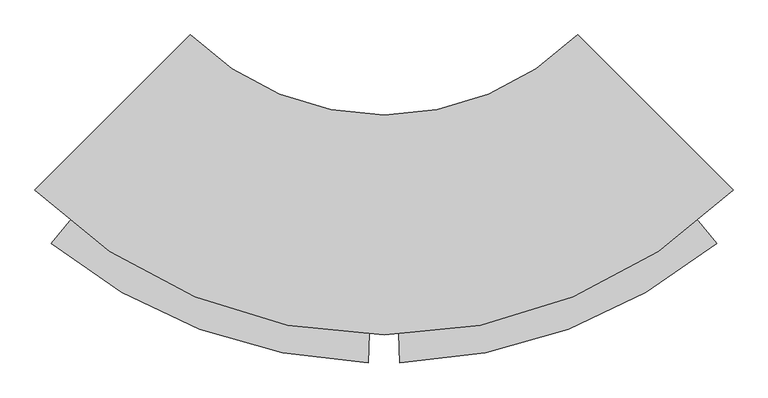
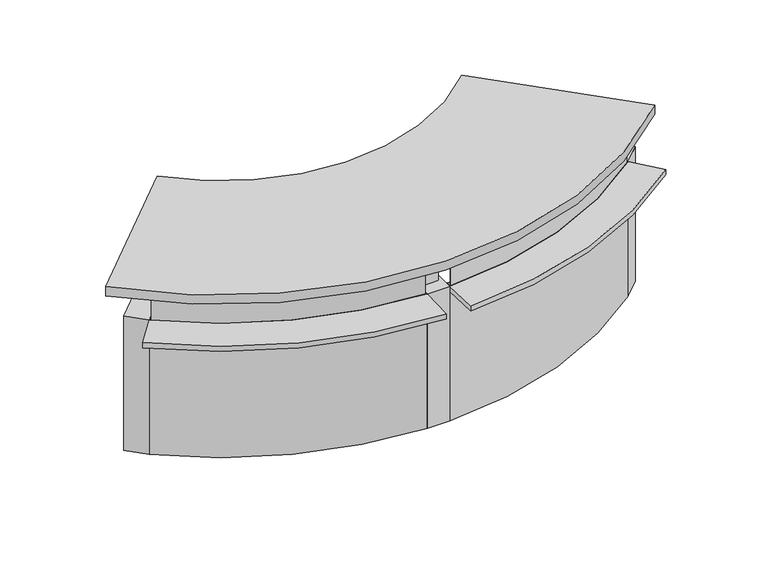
"""IFC4 building model written with IfcOpenShell, lengths in millimetres: furniture geometry, BK Library - Exlibris - 90 - Counter : BK Library - Exlibris - 90 - Counter."""

from ifc_helpers import new_model, si_unit, point, frame, frame_2d, origin, origin_with_axes, place, context, project, spatial, polyline, circle_curve, trimmed, segment, composite_curve, outline, extrude, source, transform, mapped, element, save


def furniture_1e460b96(model_context):
    return source(origin(), model_context, "Body", "SweptSolid", [
        extrude(outline(composite_curve([segment(polyline([(-1058.5159982, -80.4683379), (-969.2713404, 27.3991319)]), True, "CONTINUOUS"), segment(trimmed(circle_curve(frame_2d((-0.3293413, 1198.5316618)), 1520.0), [point((-969.2713404, 27.3991319))], [point((-45.9457466, -320.7836918))], True, "CARTESIAN"), True, "CONTINUOUS"), segment(polyline([(-45.9457466, -320.7836918), (-50.1472576, -460.7206323)]), True, "CONTINUOUS"), segment(trimmed(circle_curve(frame_2d((-0.3293413, 1198.5316618)), 1660.0), [point((-50.1472576, -460.7206323))], [point((-1058.5159982, -80.4683379))], False, "CARTESIAN"), True, "CONTINUOUS")], self_intersect=False)), frame((0.0, 0.0, 553.0000153), z_axis=(0.0, 0.0, 1.0), x_axis=(1.0, 0.0, 0.0)), (0.0, 0.0, 1.0), 22.0),
        extrude(outline(composite_curve([segment(polyline([(968.4923788, 27.2996272), (1057.7259582, -80.5770075)]), True, "CONTINUOUS"), segment(trimmed(circle_curve(frame_2d((-0.3293404, 1198.5316607)), 1660.0), [point((1057.7259582, -80.5770075))], [point((49.3181712, -460.7257409))], False, "CARTESIAN"), True, "CONTINUOUS"), segment(polyline([(49.3181712, -460.7257409), (45.1310317, -320.7883697)]), True, "CONTINUOUS"), segment(trimmed(circle_curve(frame_2d((-0.3293404, 1198.5316607)), 1520.0), [point((45.1310317, -320.7883697))], [point((968.4923788, 27.2996272))], True, "CARTESIAN"), True, "CONTINUOUS")], self_intersect=False)), frame((0.0, 0.0, 553.0000153), z_axis=(0.0, 0.0, 1.0), x_axis=(1.0, 0.0, 0.0)), (0.0, 0.0, 1.0), 22.0),
        extrude(outline(composite_curve([segment(polyline([(-1110.5493413, 88.4363723), (-615.8093413, 583.0263723)]), True, "CONTINUOUS"), segment(trimmed(circle_curve(frame_2d((-0.2543413, 1197.8369464)), 870.0), [point((-615.8093413, 583.0263723))], [point((615.3006587, 583.0263723))], True, "CARTESIAN"), True, "CONTINUOUS"), segment(polyline([(615.3006587, 583.0263723), (1109.8906587, 88.4363723)]), True, "CONTINUOUS"), segment(trimmed(circle_curve(frame_2d((-0.3293413, 1198.5316618)), 1570.0), [point((1109.8906587, 88.4363723))], [point((-1110.5493413, 88.4363723))], False, "CARTESIAN"), True, "CONTINUOUS")], self_intersect=False)), frame((0.0, 0.0, 691.0), z_axis=(0.0, 0.0, 1.0), x_axis=(1.0, 0.0, 0.0)), (0.0, 0.0, 1.0), 39.0),
        extrude(outline(polyline([(-608.8676716, 519.2659778), (-543.4702121, 453.8486844), (-969.5666368, 27.8814476), (-1034.9640964, 93.298741), (-608.8676716, 519.2659778)])), origin_with_axes(), (0.0, 0.0, 1.0), 575.0000153),
        extrude(outline(polyline([(608.3626316, 519.2537213), (1034.3944672, 93.2218856), (968.98709, 27.8145084), (542.9552543, 453.846344), (608.3626316, 519.2537213)])), origin_with_axes(), (0.0, 0.0, 1.0), 575.0000153),
        extrude(outline(polyline([(-50.498747, 80.6121115), (41.9985095, 81.3245244), (45.0984683, -321.1635378), (-47.3987882, -321.8759507), (-50.498747, 80.6121115)])), origin_with_axes(), (0.0, 0.0, 1.0), 575.0000153),
        extrude(outline(composite_curve([segment(polyline([(-953.4813695, 42.4091892), (-967.4492586, 27.5147412)]), True, "CONTINUOUS"), segment(trimmed(circle_curve(frame_2d((-0.3293413, 1198.5316618)), 1518.75), [point((-967.4492586, 27.5147412))], [point((-47.2378011, -319.4937527))], True, "CARTESIAN"), True, "CONTINUOUS"), segment(polyline([(-47.2378011, -319.4937527), (-47.8929771, -299.0849985), (-62.6353825, -299.5582694), (-62.6754902, -298.3089131), (-46.6837285, -297.7955344), (-45.9457466, -320.7836918)]), True, "CONTINUOUS"), segment(trimmed(circle_curve(frame_2d((-0.3293413, 1198.5316618)), 1520.0), [point((-45.9457466, -320.7836918))], [point((-969.2713404, 27.3991319))], False, "CARTESIAN"), True, "CONTINUOUS"), segment(polyline([(-969.2713404, 27.3991319), (-953.5380904, 44.1760459), (-941.8671937, 33.2311763), (-942.7222616, 32.3193875), (-953.4813695, 42.4091892)]), True, "CONTINUOUS")], self_intersect=False)), origin_with_axes(), (0.0, 0.0, 1.0), 575.0000153),
        extrude(outline(composite_curve([segment(polyline([(45.1310317, -320.7883697), (45.8713744, -297.8002881), (61.8630833, -298.3153092), (61.8228473, -299.5646614), (47.0804907, -299.0898764), (46.4232186, -319.4985632)]), True, "CONTINUOUS"), segment(trimmed(circle_curve(frame_2d((-0.3293404, 1198.5316607)), 1518.75), [point((46.4232186, -319.4985632))], [point((966.6703089, 27.4154236))], True, "CARTESIAN"), True, "CONTINUOUS"), segment(polyline([(966.6703089, 27.4154236), (952.7039495, 42.311306), (941.9438055, 32.2226093), (941.0888312, 33.1344859), (952.7608518, 44.0781569), (968.4923788, 27.2996272)]), True, "CONTINUOUS"), segment(trimmed(circle_curve(frame_2d((-0.3293404, 1198.5316607)), 1520.0), [point((968.4923788, 27.2996272))], [point((45.1310317, -320.7883697))], False, "CARTESIAN"), True, "CONTINUOUS")], self_intersect=False)), origin_with_axes(), (0.0, 0.0, 1.0), 575.0000153),
        extrude(outline(composite_curve([segment(polyline([(-962.2096114, 25.7925993), (-960.3070956, 28.1121755)]), True, "CONTINUOUS"), segment(trimmed(circle_curve(frame_2d((-0.3293413, 1198.5316618)), 1513.75), [point((-960.3070956, 28.1121755))], [point((-52.330944, -314.3248734))], True, "CARTESIAN"), True, "CONTINUOUS"), segment(polyline([(-52.330944, -314.3248734), (-52.4340025, -317.3231027)]), True, "CONTINUOUS"), segment(trimmed(circle_curve(frame_2d((-0.3293413, 1198.5316618)), 1516.75), [point((-52.4340025, -317.3231027))], [point((-962.2096114, 25.7925993))], False, "CARTESIAN"), True, "CONTINUOUS")], self_intersect=False)), frame((0.0, 0.0, 230.0), z_axis=(0.0, 0.0, 1.0), x_axis=(1.0, 0.0, 0.0)), (0.0, 0.0, 1.0), 461.0),
        extrude(outline(composite_curve([segment(polyline([(51.4955638, -317.332694), (51.4955638, -314.3309378)]), True, "CONTINUOUS"), segment(trimmed(circle_curve(frame_2d((-0.3293404, 1198.5316607)), 1513.75), [point((51.4955638, -314.3309378))], [point((959.5282073, 28.0135913))], True, "CARTESIAN"), True, "CONTINUOUS"), segment(polyline([(959.5282073, 28.0135913), (961.4304848, 25.6938198)]), True, "CONTINUOUS"), segment(trimmed(circle_curve(frame_2d((-0.3293404, 1198.5316607)), 1516.75), [point((961.4304848, 25.6938198))], [point((51.4955638, -317.332694))], False, "CARTESIAN"), True, "CONTINUOUS")], self_intersect=False)), frame((0.0, 0.0, 230.0), z_axis=(0.0, 0.0, 1.0), x_axis=(1.0, 0.0, 0.0)), (0.0, 0.0, 1.0), 461.0),
        extrude(outline(polyline([(732.1063183, 287.6762505), (774.5327252, 330.1026573), (845.2434033, 259.3919792), (802.8169964, 216.9655724), (732.1063183, 287.6762505)])), frame((0.0, 0.0, 575.0000153), z_axis=(0.0, 0.0, 1.0), x_axis=(1.0, 0.0, 0.0)), (0.0, 0.0, 1.0), 111.9999847),
        extrude(outline(polyline([(-732.6464682, 287.7072714), (-803.3678665, 217.0073151), (-845.7878403, 259.440154), (-775.066442, 330.1401104), (-732.6464682, 287.7072714)])), frame((0.0, 0.0, 575.0000153), z_axis=(0.0, 0.0, 1.0), x_axis=(1.0, 0.0, 0.0)), (0.0, 0.0, 1.0), 111.9999847),
        extrude(outline(polyline([(27.6840589, -170.0431774), (28.454235, -270.0402115), (-31.5439854, -270.5023171), (-32.3141615, -170.505283), (27.6840589, -170.0431774)])), frame((0.0, 0.0, 575.0000153), z_axis=(0.0, 0.0, 1.0), x_axis=(1.0, 0.0, 0.0)), (0.0, 0.0, 1.0), 111.9999847),
    ])


if __name__ == "__main__":
    model = new_model("IFC4")
    model_context = context("Model", 3, world=origin())
    ifc_project = project(units=[si_unit("LENGTHUNIT", "METRE", prefix="MILLI")], contexts=[model_context])
    site = spatial("IfcSite", under=ifc_project)
    building = spatial("IfcBuilding", under=site)
    placement = place(None, origin())
    furniture_shape = furniture_1e460b96(model_context)
    element("IfcFurniture", 1, ObjectType="BK Library - Exlibris - 90 - Counter : BK Library - Exlibris - 90 - Counter", at=placement, inside=building, context=model_context, shape_type="MappedRepresentation", body=[
        mapped(furniture_shape, transform((0.0, 0.0, 0.0), x_axis=(1.0, 0.0, 0.0), y_axis=(0.0, 1.0, 0.0), z_axis=(0.0, 0.0, 1.0))),
    ])
    save(model, "model.ifc")
